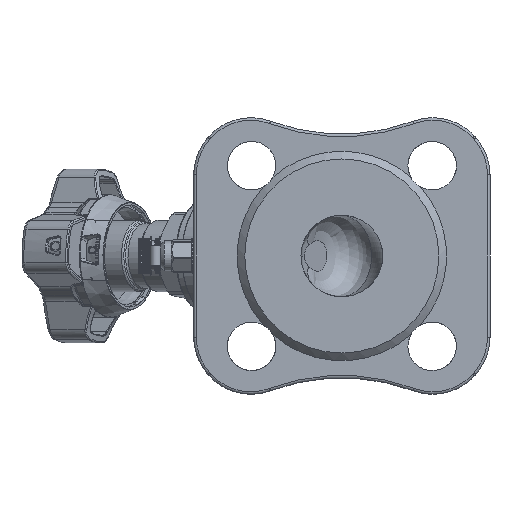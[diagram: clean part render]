
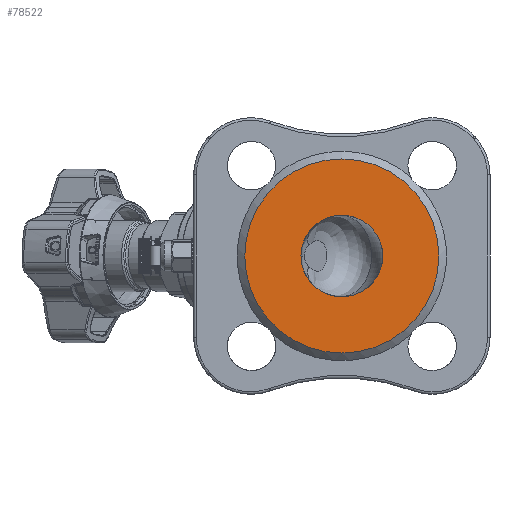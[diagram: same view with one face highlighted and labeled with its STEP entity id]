
A CAD part, left-side view. The second image highlights one B-rep face of the part: STEP entity #78522.
In plain terms, the highlighted planar face has unit normal (-1, 0, 0).
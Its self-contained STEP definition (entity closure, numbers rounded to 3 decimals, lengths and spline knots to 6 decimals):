
#1383=PLANE('',#83566);
#3836=FACE_BOUND('',#20362,.T.);
#15704=FACE_OUTER_BOUND('',#20361,.T.);
#20361=EDGE_LOOP('',(#53745));
#20362=EDGE_LOOP('',(#53746));
#28503=CIRCLE('',#83383,0.038);
#28507=CIRCLE('',#83389,0.016);
#32263=VERTEX_POINT('',#112532);
#32265=VERTEX_POINT('',#112549);
#40525=EDGE_CURVE('',#32263,#32263,#28503,.T.);
#40532=EDGE_CURVE('',#32265,#32265,#28507,.T.);
#53745=ORIENTED_EDGE('',*,*,#40525,.T.);
#53746=ORIENTED_EDGE('',*,*,#40532,.F.);
#78522=ADVANCED_FACE('',(#15704,#3836),#1383,.T.);
#83383=AXIS2_PLACEMENT_3D('',#112534,#91152,#91153);
#83389=AXIS2_PLACEMENT_3D('',#112551,#91165,#91166);
#83566=AXIS2_PLACEMENT_3D('',#117824,#91664,#91665);
#91152=DIRECTION('center_axis',(-1.,0.,0.));
#91153=DIRECTION('ref_axis',(0.,0.,1.));
#91165=DIRECTION('center_axis',(-1.,0.,0.));
#91166=DIRECTION('ref_axis',(0.,0.,1.));
#91664=DIRECTION('center_axis',(-1.,0.,0.));
#91665=DIRECTION('ref_axis',(0.,0.,1.));
#112532=CARTESIAN_POINT('',(-0.09,0.,0.038));
#112534=CARTESIAN_POINT('Origin',(-0.09,0.,0.));
#112549=CARTESIAN_POINT('',(-0.09,0.,-0.016));
#112551=CARTESIAN_POINT('Origin',(-0.09,0.,0.));
#117824=CARTESIAN_POINT('Origin',(-0.09,-0.038,0.));
